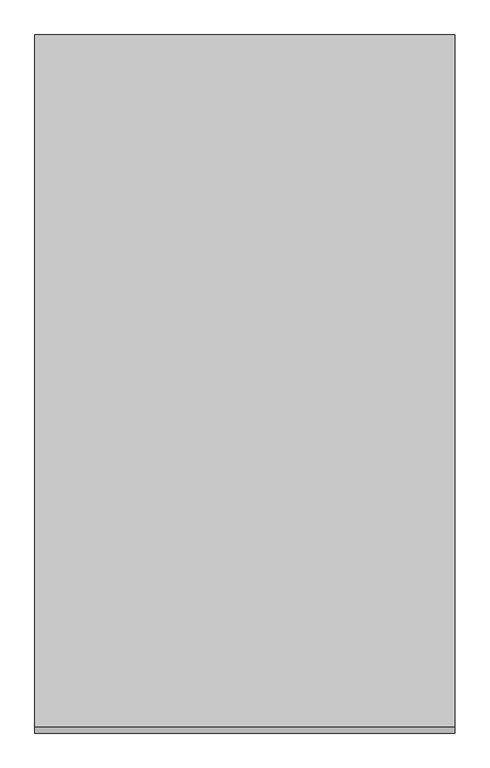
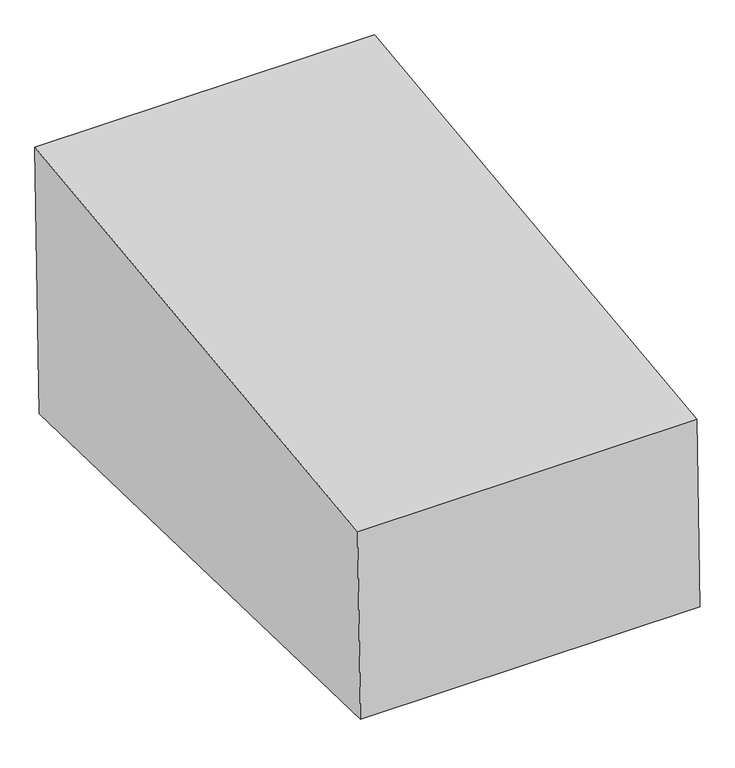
"""IFC4 building model written with IfcOpenShell, lengths in millimetres: proxy geometry, Excavation FamilySP : Excavation FamilySP."""

from ifc_helpers import new_model, si_unit, frame, origin, place, context, project, spatial, polyline, outline, extrude, source, transform, mapped, element, save


def generic_models_437c631e(model_context):
    return source(origin(), model_context, "Body", "SweptSolid", [
        extrude(outline(polyline([(65.3174009, 2485.2183138), (0.0, 0.0), (-4998.2739957, 131.3664335), (-4952.2106686, 1883.9993103), (65.3174009, 2485.2183138)])), frame((-1524.0, 0.0, 0.0), z_axis=(1.0, 0.0, 0.0), x_axis=(0.0, 1.0, 0.0)), (0.0, 0.0, 1.0), 3048.0),
    ])


if __name__ == "__main__":
    model = new_model("IFC4")
    model_context = context("Model", 3, world=origin())
    ifc_project = project(units=[si_unit("LENGTHUNIT", "METRE", prefix="MILLI")], contexts=[model_context])
    site = spatial("IfcSite", under=ifc_project)
    building = spatial("IfcBuilding", under=site)
    placement = place(None, origin())
    generic_models_shape = generic_models_437c631e(model_context)
    element("IfcBuildingElementProxy", 1, Name="Excavation FamilySP : Excavation FamilySP", ObjectType="Excavation FamilySP : Excavation FamilySP", at=placement, inside=building, context=model_context, shape_type="MappedRepresentation", body=[
        mapped(generic_models_shape, transform((0.0, 0.0, 0.0), x_axis=(1.0, 0.0, 0.0), y_axis=(0.0, 1.0, 0.0), z_axis=(0.0, 0.0, 1.0))),
    ])
    save(model, "model.ifc")
